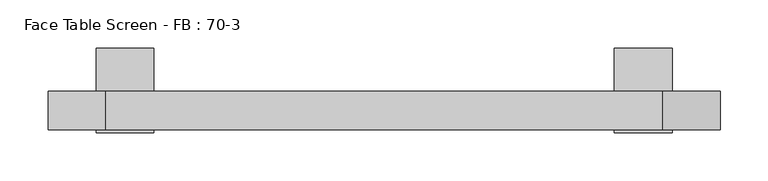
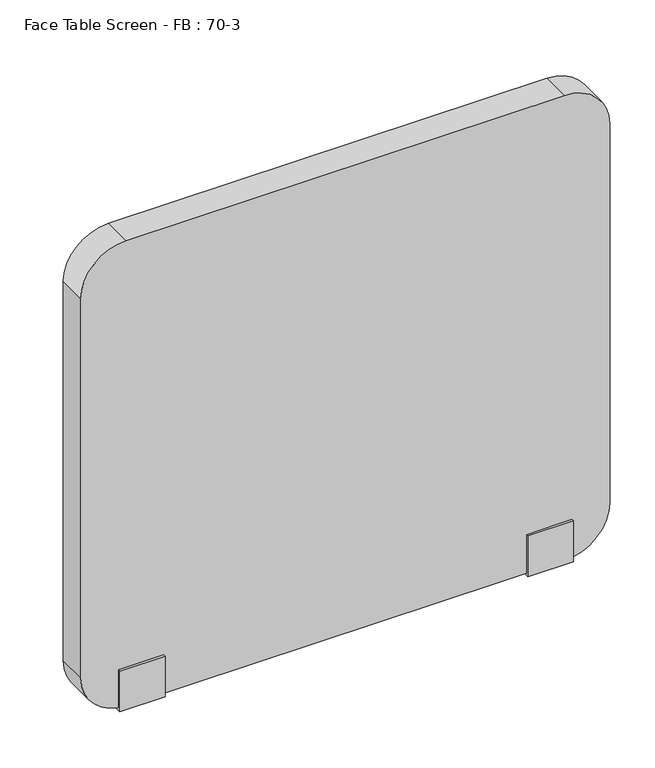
"""IFC4 building model written with IfcOpenShell, lengths in millimetres: furniture geometry, Face Table Screen - FB : 70-3."""

from ifc_helpers import new_model, si_unit, point, frame, frame_2d, origin, place, context, project, spatial, polyline, circle_curve, trimmed, segment, composite_curve, outline, extrude, source, transform, mapped, element, save


def face_table_screen_fb_70_3_6f5aee79(model_context):
    return source(origin(), model_context, "Body", "SweptSolid", [
        extrude(outline(polyline([(-42.9999947, -256.0), (-42.9999997, -199.0433898), (-40.0, -199.0433898), (-40.0, -253.0), (0.0, -253.0), (0.0, -22.0), (45.0, -22.0), (45.0, -25.0433898), (3.0000062, -25.0433898), (2.9999947, -256.0), (-42.9999947, -256.0)])), frame((259.9863751, 0.0, 0.0), z_axis=(1.0, 0.0, 0.0), x_axis=(0.0, 1.0, 0.0)), (0.0, 0.0, 1.0), 60.0),
        extrude(outline(polyline([(-42.9999947, -256.0), (-42.9999997, -199.0433898), (-40.0, -199.0433898), (-40.0, -253.0), (0.0, -253.0), (0.0, -22.0), (45.0, -22.0), (45.0, -25.0433898), (3.0000062, -25.0433898), (2.9999947, -256.0), (-42.9999947, -256.0)])), frame((-280.0136249, 0.0, 0.0), z_axis=(1.0, 0.0, 0.0), x_axis=(0.0, 1.0, 0.0)), (0.0, 0.0, 1.0), 60.0),
        extrude(outline(composite_curve([segment(polyline([(397.0, 309.9863751), (397.0, -270.0136249)]), True, "CONTINUOUS"), segment(trimmed(circle_curve(frame_2d((337.0, -270.0136249)), 60.0), [point((397.0, -270.0136249))], [point((337.0, -330.0136249))], False, "CARTESIAN"), True, "CONTINUOUS"), segment(polyline([(337.0, -330.0136249), (-193.0, -330.0136249)]), True, "CONTINUOUS"), segment(trimmed(circle_curve(frame_2d((-193.0, -270.0136249)), 60.0), [point((-193.0, -330.0136249))], [point((-253.0, -270.0136249))], False, "CARTESIAN"), True, "CONTINUOUS"), segment(polyline([(-253.0, -270.0136249), (-253.0, 309.9863751)]), True, "CONTINUOUS"), segment(trimmed(circle_curve(frame_2d((-193.0, 309.9863751)), 60.0), [point((-253.0, 309.9863751))], [point((-193.0, 369.9863751))], False, "CARTESIAN"), True, "CONTINUOUS"), segment(polyline([(-193.0, 369.9863751), (337.0, 369.9863751)]), True, "CONTINUOUS"), segment(trimmed(circle_curve(frame_2d((337.0, 309.9863751)), 60.0), [point((337.0, 369.9863751))], [point((397.0, 309.9863751))], False, "CARTESIAN"), True, "CONTINUOUS")], self_intersect=False)), frame((0.0, -40.0, 0.0), z_axis=(0.0, 1.0, 0.0), x_axis=(0.0, 0.0, 1.0)), (0.0, 0.0, 1.0), 40.0),
    ])


if __name__ == "__main__":
    model = new_model("IFC4")
    model_context = context("Model", 3, world=origin())
    ifc_project = project(units=[si_unit("LENGTHUNIT", "METRE", prefix="MILLI")], contexts=[model_context])
    site = spatial("IfcSite", under=ifc_project)
    building = spatial("IfcBuilding", under=site)
    placement = place(None, origin())
    face_table_screen_fb_70_3_shape = face_table_screen_fb_70_3_6f5aee79(model_context)
    element("IfcFurniture", 1, ObjectType="Face Table Screen - FB : 70-3", at=placement, inside=building, context=model_context, shape_type="MappedRepresentation", body=[
        mapped(face_table_screen_fb_70_3_shape, transform((0.0, 0.0, 0.0), x_axis=(1.0, 0.0, 0.0), y_axis=(0.0, 1.0, 0.0), z_axis=(0.0, 0.0, 1.0))),
    ])
    save(model, "model.ifc")
